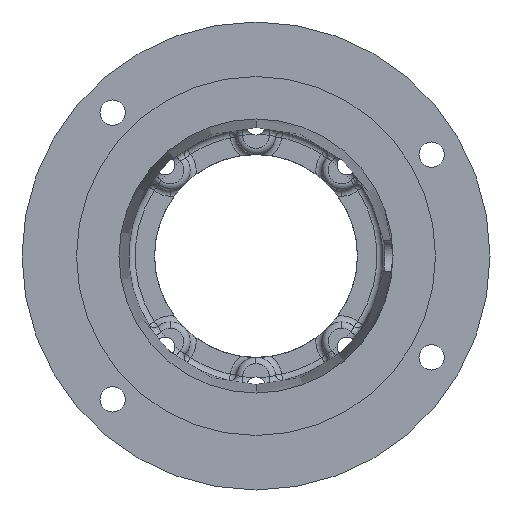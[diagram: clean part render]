
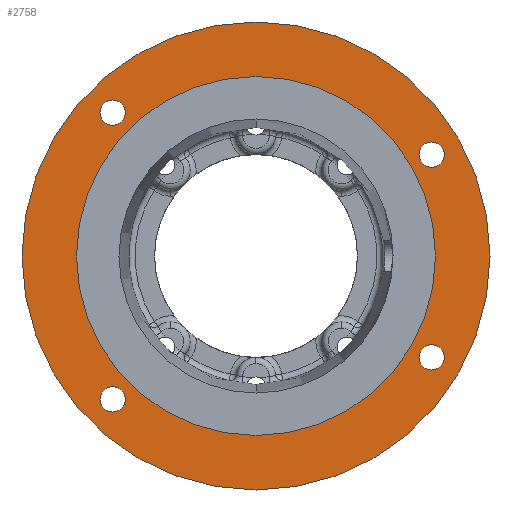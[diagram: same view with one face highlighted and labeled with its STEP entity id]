
A CAD part, front view. The second image highlights one B-rep face of the part: STEP entity #2758.
In plain terms, the highlighted planar face has unit normal (0, -1, 0).
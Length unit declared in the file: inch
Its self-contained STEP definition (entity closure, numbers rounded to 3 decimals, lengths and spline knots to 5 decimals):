
#56 = CARTESIAN_POINT ( 'NONE',  ( 2.81458, 0., -1.82813 ) ) ;
#140 = VERTEX_POINT ( 'NONE', #4436 ) ;
#144 = EDGE_CURVE ( 'NONE', #8182, #614, #2957, .T. ) ;
#264 = DIRECTION ( 'NONE',  ( 0., 0., 1. ) ) ;
#316 = VERTEX_POINT ( 'NONE', #6988 ) ;
#332 = CARTESIAN_POINT ( 'NONE',  ( 0., 0., 0. ) ) ;
#540 = CIRCLE ( 'NONE', #8494, 2.876 ) ;
#560 = AXIS2_PLACEMENT_3D ( 'NONE', #5222, #1301, #5891 ) ;
#582 = FACE_BOUND ( 'NONE', #4843, .T. ) ;
#614 = VERTEX_POINT ( 'NONE', #5912 ) ;
#653 = AXIS2_PLACEMENT_3D ( 'NONE', #2867, #4174, #264 ) ;
#787 = FACE_BOUND ( 'NONE', #5141, .T. ) ;
#807 = ORIENTED_EDGE ( 'NONE', *, *, #5666, .T. ) ;
#819 = EDGE_CURVE ( 'NONE', #2278, #2827, #3766, .T. ) ;
#906 = ORIENTED_EDGE ( 'NONE', *, *, #6188, .F. ) ;
#977 = DIRECTION ( 'NONE',  ( 0., 0., -1. ) ) ;
#1256 = CARTESIAN_POINT ( 'NONE',  ( 2.81458, 0., 1.625 ) ) ;
#1301 = DIRECTION ( 'NONE',  ( 0., -1., 0. ) ) ;
#1318 = CARTESIAN_POINT ( 'NONE',  ( 2.81458, 0., 1.625 ) ) ;
#1332 = CARTESIAN_POINT ( 'NONE',  ( 2.81458, 0., -1.625 ) ) ;
#1538 = ORIENTED_EDGE ( 'NONE', *, *, #8092, .F. ) ;
#1566 = CIRCLE ( 'NONE', #1877, 2.876 ) ;
#1737 = VERTEX_POINT ( 'NONE', #6405 ) ;
#1877 = AXIS2_PLACEMENT_3D ( 'NONE', #2411, #6997, #3073 ) ;
#1895 = DIRECTION ( 'NONE',  ( 0., 0., -1. ) ) ;
#1957 = DIRECTION ( 'NONE',  ( 0., 0., -1. ) ) ;
#1971 = DIRECTION ( 'NONE',  ( 0., 0., -1. ) ) ;
#2078 = VERTEX_POINT ( 'NONE', #3711 ) ;
#2198 = PLANE ( 'NONE',  #653 ) ;
#2253 = ORIENTED_EDGE ( 'NONE', *, *, #144, .F. ) ;
#2273 = EDGE_LOOP ( 'NONE', ( #906, #7408 ) ) ;
#2278 = VERTEX_POINT ( 'NONE', #4553 ) ;
#2293 = CARTESIAN_POINT ( 'NONE',  ( 0., 0., -3.75 ) ) ;
#2314 = FACE_BOUND ( 'NONE', #3398, .T. ) ;
#2411 = CARTESIAN_POINT ( 'NONE',  ( 0., 0., 0. ) ) ;
#2514 = CARTESIAN_POINT ( 'NONE',  ( 2.81458, 0., -1.625 ) ) ;
#2602 = CARTESIAN_POINT ( 'NONE',  ( 2.81458, 0., -1.42188 ) ) ;
#2725 = CIRCLE ( 'NONE', #5279, 0.20312 ) ;
#2758 = ADVANCED_FACE ( 'NONE', ( #5801, #4051, #787, #2314, #582, #7335 ), #2198, .F. ) ;
#2815 = DIRECTION ( 'NONE',  ( 0., -1., 0. ) ) ;
#2827 = VERTEX_POINT ( 'NONE', #2293 ) ;
#2867 = CARTESIAN_POINT ( 'NONE',  ( -2.20315, 0., 0. ) ) ;
#2884 = CIRCLE ( 'NONE', #6579, 0.20312 ) ;
#2957 = CIRCLE ( 'NONE', #5018, 0.20312 ) ;
#3041 = ORIENTED_EDGE ( 'NONE', *, *, #3323, .F. ) ;
#3073 = DIRECTION ( 'NONE',  ( 0., 0., -1. ) ) ;
#3169 = DIRECTION ( 'NONE',  ( 0., 0., -1. ) ) ;
#3323 = EDGE_CURVE ( 'NONE', #5923, #316, #1566, .T. ) ;
#3391 = ORIENTED_EDGE ( 'NONE', *, *, #819, .T. ) ;
#3398 = EDGE_LOOP ( 'NONE', ( #2253, #4442 ) ) ;
#3466 = ORIENTED_EDGE ( 'NONE', *, *, #8065, .F. ) ;
#3526 = CIRCLE ( 'NONE', #560, 0.20312 ) ;
#3547 = DIRECTION ( 'NONE',  ( 0., -1., 0. ) ) ;
#3617 = CARTESIAN_POINT ( 'NONE',  ( 0., 0., 0. ) ) ;
#3646 = AXIS2_PLACEMENT_3D ( 'NONE', #3718, #8305, #4371 ) ;
#3711 = CARTESIAN_POINT ( 'NONE',  ( -2.2981, 0., -2.50122 ) ) ;
#3718 = CARTESIAN_POINT ( 'NONE',  ( 0., 0., 0. ) ) ;
#3755 = EDGE_CURVE ( 'NONE', #7003, #140, #2725, .T. ) ;
#3766 = CIRCLE ( 'NONE', #6301, 3.75 ) ;
#3771 = ORIENTED_EDGE ( 'NONE', *, *, #3755, .F. ) ;
#3822 = DIRECTION ( 'NONE',  ( 0., 0., -1. ) ) ;
#4051 = FACE_BOUND ( 'NONE', #2273, .T. ) ;
#4174 = DIRECTION ( 'NONE',  ( 0., 1., 0. ) ) ;
#4276 = DIRECTION ( 'NONE',  ( 0., -1., 0. ) ) ;
#4320 = ORIENTED_EDGE ( 'NONE', *, *, #8283, .F. ) ;
#4371 = DIRECTION ( 'NONE',  ( 0., 0., -1. ) ) ;
#4436 = CARTESIAN_POINT ( 'NONE',  ( 2.81458, 0., 1.42187 ) ) ;
#4442 = ORIENTED_EDGE ( 'NONE', *, *, #4502, .F. ) ;
#4502 = EDGE_CURVE ( 'NONE', #614, #8182, #3526, .T. ) ;
#4529 = VERTEX_POINT ( 'NONE', #2602 ) ;
#4553 = CARTESIAN_POINT ( 'NONE',  ( 0., 0., 3.75 ) ) ;
#4775 = DIRECTION ( 'NONE',  ( 0., 0., -1. ) ) ;
#4843 = EDGE_LOOP ( 'NONE', ( #3466, #8469 ) ) ;
#4900 = DIRECTION ( 'NONE',  ( 0., -1., 0. ) ) ;
#4971 = EDGE_CURVE ( 'NONE', #4529, #6224, #6993, .T. ) ;
#5018 = AXIS2_PLACEMENT_3D ( 'NONE', #6171, #6569, #4775 ) ;
#5128 = CARTESIAN_POINT ( 'NONE',  ( -2.2981, 0., 2.09497 ) ) ;
#5141 = EDGE_LOOP ( 'NONE', ( #4320, #3771 ) ) ;
#5170 = EDGE_CURVE ( 'NONE', #1737, #2078, #2884, .T. ) ;
#5222 = CARTESIAN_POINT ( 'NONE',  ( -2.2981, 0., 2.2981 ) ) ;
#5279 = AXIS2_PLACEMENT_3D ( 'NONE', #1256, #5841, #1895 ) ;
#5614 = EDGE_LOOP ( 'NONE', ( #3041, #1538 ) ) ;
#5666 = EDGE_CURVE ( 'NONE', #2827, #2278, #6063, .T. ) ;
#5751 = CIRCLE ( 'NONE', #6273, 0.20312 ) ;
#5801 = FACE_BOUND ( 'NONE', #5614, .T. ) ;
#5841 = DIRECTION ( 'NONE',  ( 0., -1., 0. ) ) ;
#5891 = DIRECTION ( 'NONE',  ( 0., 0., -1. ) ) ;
#5906 = DIRECTION ( 'NONE',  ( 0., -1., 0. ) ) ;
#5912 = CARTESIAN_POINT ( 'NONE',  ( -2.2981, 0., 2.50122 ) ) ;
#5919 = DIRECTION ( 'NONE',  ( 0., -1., 0. ) ) ;
#5923 = VERTEX_POINT ( 'NONE', #7959 ) ;
#6063 = CIRCLE ( 'NONE', #3646, 3.75 ) ;
#6171 = CARTESIAN_POINT ( 'NONE',  ( -2.2981, 0., 2.2981 ) ) ;
#6188 = EDGE_CURVE ( 'NONE', #6224, #4529, #5751, .T. ) ;
#6224 = VERTEX_POINT ( 'NONE', #56 ) ;
#6273 = AXIS2_PLACEMENT_3D ( 'NONE', #1332, #5919, #1971 ) ;
#6301 = AXIS2_PLACEMENT_3D ( 'NONE', #3617, #4276, #3822 ) ;
#6338 = EDGE_LOOP ( 'NONE', ( #807, #3391 ) ) ;
#6405 = CARTESIAN_POINT ( 'NONE',  ( -2.2981, 0., -2.09497 ) ) ;
#6510 = AXIS2_PLACEMENT_3D ( 'NONE', #1318, #5906, #1957 ) ;
#6569 = DIRECTION ( 'NONE',  ( 0., -1., 0. ) ) ;
#6579 = AXIS2_PLACEMENT_3D ( 'NONE', #6737, #2815, #7391 ) ;
#6594 = AXIS2_PLACEMENT_3D ( 'NONE', #2514, #7099, #3169 ) ;
#6634 = AXIS2_PLACEMENT_3D ( 'NONE', #7485, #3547, #8136 ) ;
#6737 = CARTESIAN_POINT ( 'NONE',  ( -2.2981, 0., -2.2981 ) ) ;
#6883 = CARTESIAN_POINT ( 'NONE',  ( 2.81458, 0., 1.82812 ) ) ;
#6988 = CARTESIAN_POINT ( 'NONE',  ( 0., 0., 2.876 ) ) ;
#6993 = CIRCLE ( 'NONE', #6594, 0.20312 ) ;
#6997 = DIRECTION ( 'NONE',  ( 0., -1., 0. ) ) ;
#7003 = VERTEX_POINT ( 'NONE', #6883 ) ;
#7099 = DIRECTION ( 'NONE',  ( 0., -1., 0. ) ) ;
#7335 = FACE_OUTER_BOUND ( 'NONE', #6338, .T. ) ;
#7391 = DIRECTION ( 'NONE',  ( 0., 0., -1. ) ) ;
#7408 = ORIENTED_EDGE ( 'NONE', *, *, #4971, .F. ) ;
#7485 = CARTESIAN_POINT ( 'NONE',  ( -2.2981, 0., -2.2981 ) ) ;
#7712 = CIRCLE ( 'NONE', #6634, 0.20312 ) ;
#7959 = CARTESIAN_POINT ( 'NONE',  ( 0., 0., -2.876 ) ) ;
#8065 = EDGE_CURVE ( 'NONE', #2078, #1737, #7712, .T. ) ;
#8092 = EDGE_CURVE ( 'NONE', #316, #5923, #540, .T. ) ;
#8136 = DIRECTION ( 'NONE',  ( 0., 0., -1. ) ) ;
#8182 = VERTEX_POINT ( 'NONE', #5128 ) ;
#8211 = CIRCLE ( 'NONE', #6510, 0.20312 ) ;
#8283 = EDGE_CURVE ( 'NONE', #140, #7003, #8211, .T. ) ;
#8305 = DIRECTION ( 'NONE',  ( 0., -1., 0. ) ) ;
#8469 = ORIENTED_EDGE ( 'NONE', *, *, #5170, .F. ) ;
#8494 = AXIS2_PLACEMENT_3D ( 'NONE', #332, #4900, #977 ) ;
